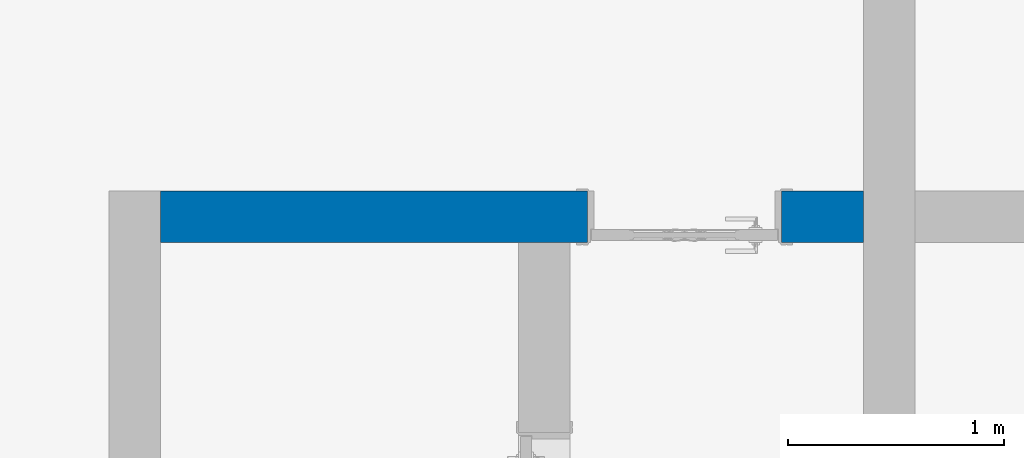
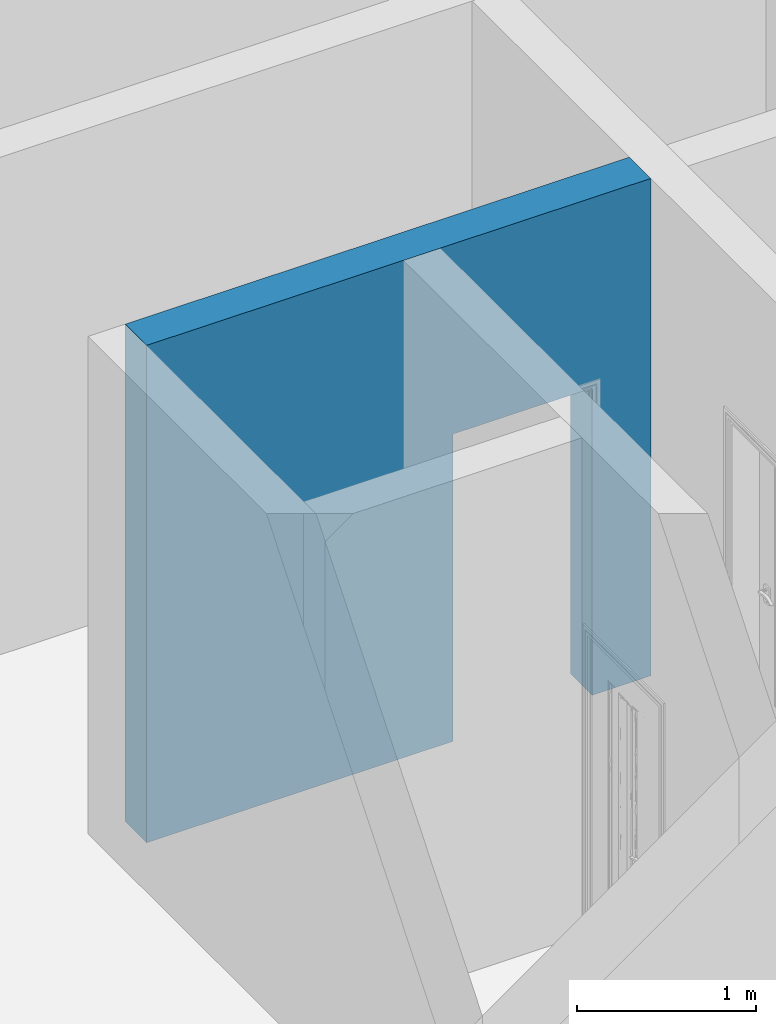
# One storey, part 17 of 24: 1 wall, 1 opening.
"""IFC2X3 building model written with IfcOpenShell, lengths in millimetres."""

from ifc_helpers import new_model, entity, si_unit, converted_unit, derived_unit, direction, frame, frame_2d, origin, place, context, subcontext, project, spatial, polyline, rectangle, extrude, clip, bounded_halfspace, material, layer, layer_set, layer_usage, type_object, element, save


model = new_model("IFC2X3")

# Units and contexts
model_context = context("Model", 3, precision=0.01, world=origin(), true_north=direction((6.12303176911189e-17, 1.0)))
body_context = subcontext(model_context, "Body", "Model", "MODEL_VIEW")
ifc_project = project(units=[si_unit("LENGTHUNIT", "METRE", prefix="MILLI"), si_unit("AREAUNIT", "SQUARE_METRE"), si_unit("VOLUMEUNIT", "CUBIC_METRE"), converted_unit("PLANEANGLEUNIT", "DEGREE", entity("IfcRatioMeasure", 0.0174532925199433), si_unit("PLANEANGLEUNIT", "RADIAN"), dimensions=[0, 0, 0, 0, 0, 0, 0]), si_unit("MASSUNIT", "GRAM", prefix="KILO"), derived_unit("MASSDENSITYUNIT", [(si_unit("MASSUNIT", "GRAM", prefix="KILO"), 1), (si_unit("LENGTHUNIT", "METRE"), -3)]), si_unit("TIMEUNIT", "SECOND"), si_unit("FREQUENCYUNIT", "HERTZ"), si_unit("THERMODYNAMICTEMPERATUREUNIT", "DEGREE_CELSIUS"), derived_unit("THERMALTRANSMITTANCEUNIT", [(si_unit("MASSUNIT", "GRAM", prefix="KILO"), 1), (si_unit("THERMODYNAMICTEMPERATUREUNIT", "KELVIN"), -1), (si_unit("TIMEUNIT", "SECOND"), -3)]), derived_unit("VOLUMETRICFLOWRATEUNIT", [(si_unit("LENGTHUNIT", "METRE"), 3), (si_unit("TIMEUNIT", "SECOND"), -1)]), si_unit("ELECTRICCURRENTUNIT", "AMPERE"), si_unit("ELECTRICVOLTAGEUNIT", "VOLT"), si_unit("POWERUNIT", "WATT"), si_unit("FORCEUNIT", "NEWTON", prefix="KILO"), si_unit("ILLUMINANCEUNIT", "LUX"), si_unit("LUMINOUSFLUXUNIT", "LUMEN"), si_unit("LUMINOUSINTENSITYUNIT", "CANDELA"), derived_unit("USERDEFINED", [(si_unit("MASSUNIT", "GRAM", prefix="KILO"), -1), (si_unit("LENGTHUNIT", "METRE"), -2), (si_unit("TIMEUNIT", "SECOND"), 3), (si_unit("LUMINOUSFLUXUNIT", "LUMEN"), 1)]), derived_unit("LINEARVELOCITYUNIT", [(si_unit("LENGTHUNIT", "METRE"), 1), (si_unit("TIMEUNIT", "SECOND"), -1)]), si_unit("PRESSUREUNIT", "PASCAL"), derived_unit("USERDEFINED", [(si_unit("LENGTHUNIT", "METRE"), -2), (si_unit("MASSUNIT", "GRAM", prefix="KILO"), 1), (si_unit("TIMEUNIT", "SECOND"), -2)])], contexts=[model_context])

# Site, building, storey
site_placement = place(None, origin())
site = spatial("IfcSite", under=ifc_project, at=site_placement, Name="表面", CompositionType="ELEMENT")
building_placement = place(site_placement, origin())
building = spatial("IfcBuilding", under=site, at=building_placement, CompositionType="ELEMENT")
storey_placement = place(building_placement, frame((0.0, 0.0, -3500.0)))
storey = spatial("IfcBuildingStorey", under=building, at=storey_placement, Name="-1F", CompositionType="ELEMENT", Elevation=-3500.0)

# Wall, opening
ifc_material_1 = material(Name="白色涂料")
ifc_layer_1 = layer(ifc_material_1, 10.0)
ifc_material_2 = material(Name="默认墙")
ifc_layer_2 = layer(ifc_material_2, 220.0)
ifc_layer_3 = layer(ifc_material_1, 10.0)
ifc_layer_set = layer_set([ifc_layer_1, ifc_layer_2, ifc_layer_3], Name="基本墙:粉刷墙240")
ifc_layer_usage = layer_usage(ifc_layer_set, "AXIS2", "NEGATIVE", 120.0)
wall_type = type_object("IfcWallType", Name="基本墙:粉刷墙240", PredefinedType="STANDARD", material=ifc_layer_set)
wall_placement = place(storey_placement, frame((-11910.2499126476, -1507.84591297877, 0.0)))
wall = element("IfcWallStandardCase", 1, at=wall_placement, inside=storey, type_object=wall_type, material=ifc_layer_usage, Name="基本墙:粉刷墙240", ObjectType="基本墙:粉刷墙240", context=body_context, shape_type="Clipping", body=[
    clip(extrude(rectangle(XDim=3260.00000000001, YDim=240.0, at=frame_2d((1630.00000000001, 2.8421709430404e-14), x_axis=(-1.0, 0.0))), origin(), (0.0, 0.0, 1.0), 3399.99999999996), bounded_halfspace(frame((0.0, -120.0, 3400.0), z_axis=(0.0, 0.0, -1.0), x_axis=(0.0, -1.0, 0.0)), True, frame((0.0, -120.0, 3400.0)), polyline([(0.0, 0.0), (1660.0, 0.0), (1900.0, 0.0), (3260.0, 0.0), (3260.0, 240.0), (0.0, 240.0), (0.0, 0.0)]))),
])
opening_placement = place(wall_placement, frame((2880.0, 120.0, 0.0)))
element("IfcOpeningElement", 2, at=opening_placement, cuts=wall, Name="装饰木门:M0921:1", ObjectType="Opening", context=body_context, shape_type="SweptSolid", body=[
    extrude(rectangle(XDim=2099.99999999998, YDim=900.0, at=frame_2d((1049.99999999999, 450.0), x_axis=(1.0, 0.0))), frame((0.0, 0.0, 0.0), z_axis=(0.0, -1.0, 0.0), x_axis=(0.0, 0.0, 1.0)), (0.0, 0.0, 1.0), 240.0),
])

save(model, "model.ifc")
